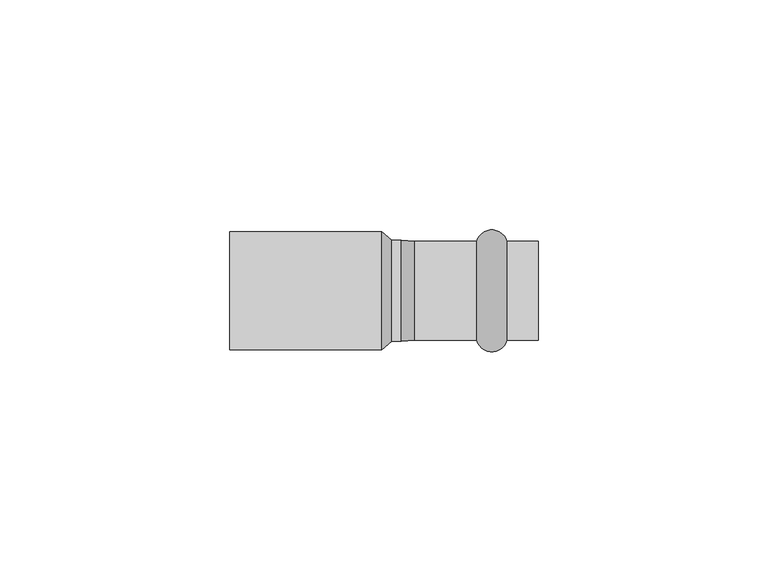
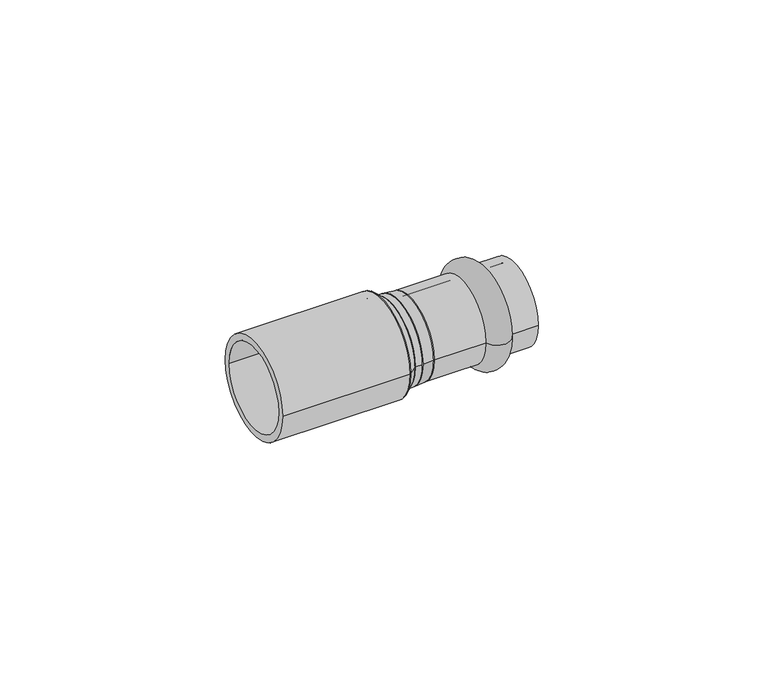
"""IFC4 building model written with IfcOpenShell, lengths in millimetres: pipe fitting geometry, VALTEC_VTi.905.I_Вставка переходная_Нержавеющая сталь : VTi.905.I."""

from ifc_helpers import new_model, si_unit, point, frame, origin, origin_2d, place, context, project, spatial, polyline, circle_curve, ellipse_curve, trimmed, segment, composite_curve, outline, extrude, source, transform, mapped, element, save
from ifc_brep_helpers import plane_surface, cylinder_surface, revolved_surface, advanced_brep


def pipe_fitting_0405b2f1(model_context):
    return source(origin(), model_context, "Body", "SolidModel", [
        advanced_brep(
        [(26.7287193, -10.75, 0.0), (20.1712807, -10.75, 0.0), (20.1712807, 10.75, 0.0), (26.7287193, 10.75, 0.0), (33.5, -10.75, 0.0), (33.5, 10.75, 0.0), (33.5, -9.0, 0.0), (33.5, 9.0, 0.0), (6.7, -9.0, 0.0), (6.7, 9.0, 0.0), (6.7, -10.75, 0.0), (6.7, 10.75, 0.0)],
        [
            (0, 1, circle_curve(frame((23.45, -9.85, 0.0), z_axis=(0.0, 0.0, -1.0), x_axis=(-1.0, 0.0, 0.0)), 3.4)),
            (1, 2, circle_curve(frame((20.1712807, 0.0, 0.0), z_axis=(1.0, 0.0, 0.0), x_axis=(0.0, 1.0, 0.0)), 10.75)),
            (2, 3, circle_curve(frame((23.45, 9.85, 0.0), z_axis=(0.0, 0.0, -1.0), x_axis=(-1.0, 0.0, 0.0)), 3.4)),
            (3, 0, circle_curve(frame((26.7287193, 0.0, 0.0), z_axis=(-1.0, 0.0, 0.0), x_axis=(0.0, 1.0, 0.0)), 10.75)),
            (2, 1, circle_curve(frame((20.1712807, 0.0, 0.0), z_axis=(1.0, 0.0, 0.0), x_axis=(0.0, 1.0, 0.0)), 10.75)),
            (0, 3, circle_curve(frame((26.7287193, 0.0, 0.0), z_axis=(-1.0, 0.0, 0.0), x_axis=(0.0, 1.0, 0.0)), 10.75)),
            (4, 0),
            (3, 5),
            (5, 4, circle_curve(frame((33.5, 0.0, 0.0), z_axis=(-1.0, 0.0, 0.0), x_axis=(0.0, 1.0, 0.0)), 10.75)),
            (4, 5, circle_curve(frame((33.5, 0.0, 0.0), z_axis=(-1.0, 0.0, 0.0), x_axis=(0.0, 1.0, 0.0)), 10.75)),
            (6, 4),
            (5, 7),
            (7, 6, circle_curve(frame((33.5, 0.0, 0.0), z_axis=(-1.0, 0.0, 0.0), x_axis=(0.0, 1.0, 0.0)), 9.0)),
            (6, 7, circle_curve(frame((33.5, 0.0, 0.0), z_axis=(-1.0, 0.0, 0.0), x_axis=(0.0, 1.0, 0.0)), 9.0)),
            (8, 6),
            (7, 9),
            (9, 8, circle_curve(frame((6.7, 0.0, 0.0), z_axis=(-1.0, 0.0, 0.0), x_axis=(0.0, 1.0, 0.0)), 9.0)),
            (8, 9, circle_curve(frame((6.7, 0.0, 0.0), z_axis=(-1.0, 0.0, 0.0), x_axis=(0.0, 1.0, 0.0)), 9.0)),
            (10, 8),
            (9, 11),
            (11, 10, circle_curve(frame((6.7, 0.0, 0.0), z_axis=(-1.0, 0.0, 0.0), x_axis=(0.0, 1.0, 0.0)), 10.75)),
            (10, 11, circle_curve(frame((6.7, 0.0, 0.0), z_axis=(-1.0, 0.0, 0.0), x_axis=(0.0, 1.0, 0.0)), 10.75)),
            (1, 10),
            (11, 2),
        ],
        [
            revolved_surface(trimmed(ellipse_curve(frame((23.45, 9.85, 0.0), z_axis=(0.0, 0.0, -1.0), x_axis=(-1.0, 0.0, 0.0)), 3.4, 3.4), [point((20.1712807, 10.75, 0.0))], [point((26.7287193, 10.75, 0.0))], True, "CARTESIAN"), (37.0364426, 0.0, 0.0), (1.0, 0.0, 0.0)),
            cylinder_surface(frame((37.0364426, 0.0, 0.0), z_axis=(1.0, 0.0, 0.0), x_axis=(0.0, 1.0, 0.0)), 10.75),
            plane_surface(frame((33.5, 0.0, 0.0), z_axis=(1.0, 0.0, 0.0), x_axis=(0.0, 1.0, 0.0))),
            revolved_surface(polyline([(33.5, 9.0, 0.0), (6.699999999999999, 9.0, 0.0)]), (37.0364426, 0.0, 0.0), (1.0, 0.0, 0.0)),
            plane_surface(frame((6.7, 0.0, 0.0), z_axis=(-1.0, 0.0, 0.0), x_axis=(0.0, 1.0, 0.0))),
        ],
        [
            (0, [[1, 2, 3, 4]]),
            (0, [[-3, 5, -1, 6]]),
            (1, [[7, -4, 8, 9]]),
            (1, [[-8, -6, -7, 10]]),
            (2, [[11, -9, 12, 13]]),
            (2, [[-12, -10, -11, 14]]),
            (3, [[15, -13, 16, 17]]),
            (3, [[-16, -14, -15, 18]]),
            (4, [[19, -17, 20, 21]]),
            (4, [[-20, -18, -19, 22]]),
            (1, [[23, -21, 24, -2]]),
            (1, [[-24, -22, -23, -5]]),
        ],
    ),
        advanced_brep(
        [(3.7, -11.0, 0.0), (3.7, 11.0, 0.0), (6.7, -10.75, 0.0), (6.7, 10.75, 0.0)],
        [
            (0, 1, circle_curve(frame((3.7, 0.0, 0.0), z_axis=(-1.0, 0.0, 0.0), x_axis=(0.0, -1.0, 0.0)), 11.0)),
            (1, 0, circle_curve(frame((3.7, 0.0, 0.0), z_axis=(-1.0, 0.0, 0.0), x_axis=(0.0, 1.0, 0.0)), 11.0)),
            (2, 3, circle_curve(frame((6.7, 0.0, 0.0), z_axis=(1.0, 0.0, 0.0), x_axis=(0.0, 1.0, 0.0)), 10.75)),
            (3, 2, circle_curve(frame((6.7, 0.0, 0.0), z_axis=(1.0, 0.0, 0.0), x_axis=(0.0, -1.0, 0.0)), 10.75)),
            (2, 0),
            (1, 3),
        ],
        [
            plane_surface(frame((3.7, 0.0, 0.0), z_axis=(-1.0, 0.0, 0.0), x_axis=(0.0, 0.0, 1.0))),
            plane_surface(frame((6.7, 0.0, 0.0), z_axis=(1.0, 0.0, 0.0), x_axis=(0.0, 0.0, 1.0))),
            revolved_surface(polyline([(6.699999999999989, -10.75, 0.0), (3.6999999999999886, -11.0, 0.0)]), (135.7, 0.0, 0.0), (-1.0, 0.0, 0.0)),
            revolved_surface(polyline([(6.699999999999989, 10.75, 0.0), (3.6999999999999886, 11.0, 0.0)]), (135.7, 0.0, 0.0), (-1.0, 0.0, 0.0)),
        ],
        [
            (0, [[1, 2]]),
            (1, [[3, 4]]),
            (2, [[-3, 5, -2, 6]]),
            (3, [[-4, -6, -1, -5]]),
        ],
    ),
        extrude(outline(composite_curve([segment(trimmed(circle_curve(origin_2d(), 11.0), [point((-11.0, 0.0))], [point((11.0, 0.0))], False, "CARTESIAN"), True, "CONTINUOUS"), segment(trimmed(circle_curve(origin_2d(), 11.0), [point((11.0, 0.0))], [point((-11.0, 0.0))], False, "CARTESIAN"), True, "CONTINUOUS")], self_intersect=False)), frame((1.7, 0.0, 0.0), z_axis=(1.0, 0.0, 0.0), x_axis=(0.0, 1.0, 0.0)), (0.0, 0.0, 1.0), 2.0),
        advanced_brep(
        [(1.7, -11.0, 0.0), (1.7, 11.0, 0.0), (-0.5, -12.8, 0.0), (-0.5, 12.8, 0.0)],
        [
            (0, 1, circle_curve(frame((1.7, 0.0, 0.0), z_axis=(1.0, 0.0, 0.0), x_axis=(0.0, -1.0, 0.0)), 11.0)),
            (1, 0, circle_curve(frame((1.7, 0.0, 0.0), z_axis=(1.0, 0.0, 0.0), x_axis=(0.0, 1.0, 0.0)), 11.0)),
            (2, 3, circle_curve(frame((-0.5, 0.0, 0.0), z_axis=(-1.0, 0.0, 0.0), x_axis=(0.0, 1.0, 0.0)), 12.8)),
            (3, 2, circle_curve(frame((-0.5, 0.0, 0.0), z_axis=(-1.0, 0.0, 0.0), x_axis=(0.0, -1.0, 0.0)), 12.8)),
            (3, 1),
            (0, 2),
        ],
        [
            plane_surface(frame((1.7, 0.0, 0.0), z_axis=(1.0, 0.0, 0.0), x_axis=(0.0, 0.0, -1.0))),
            plane_surface(frame((-0.5, 0.0, 0.0), z_axis=(-1.0, 0.0, 0.0), x_axis=(0.0, 0.0, -1.0))),
            revolved_surface(polyline([(1.6999999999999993, -10.999999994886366, 0.0), (-0.5, -12.8, 0.0)]), (15.1444444, 0.0, 0.0), (-1.0, 0.0, 0.0)),
            revolved_surface(polyline([(1.6999999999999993, 10.999999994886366, 0.0), (-0.5, 12.8, 0.0)]), (15.1444444, 0.0, 0.0), (-1.0, 0.0, 0.0)),
        ],
        [
            (0, [[1, 2]]),
            (1, [[3, 4]]),
            (2, [[-4, 5, -1, 6]]),
            (3, [[-3, -6, -2, -5]]),
        ],
    ),
        extrude(outline(composite_curve([segment(trimmed(circle_curve(origin_2d(), 12.8), [point((-12.8, 0.0))], [point((12.8, 0.0))], False, "CARTESIAN"), True, "CONTINUOUS"), segment(trimmed(circle_curve(origin_2d(), 12.8), [point((12.8, 0.0))], [point((-12.8, 0.0))], False, "CARTESIAN"), True, "CONTINUOUS")], self_intersect=False), holes=[composite_curve([segment(trimmed(circle_curve(origin_2d(), 11.0), [point((-11.0, 0.0))], [point((11.0, 0.0))], True, "CARTESIAN"), True, "CONTINUOUS"), segment(trimmed(circle_curve(origin_2d(), 11.0), [point((11.0, 0.0))], [point((-11.0, 0.0))], True, "CARTESIAN"), True, "CONTINUOUS")], self_intersect=False)]), frame((-33.5, 0.0, 0.0), z_axis=(1.0, 0.0, 0.0), x_axis=(0.0, 1.0, 0.0)), (0.0, 0.0, 1.0), 33.0),
    ])


if __name__ == "__main__":
    model = new_model("IFC4")
    model_context = context("Model", 3, world=origin())
    ifc_project = project(units=[si_unit("LENGTHUNIT", "METRE", prefix="MILLI")], contexts=[model_context])
    site = spatial("IfcSite", under=ifc_project)
    building = spatial("IfcBuilding", under=site)
    placement = place(None, origin())
    pipe_fitting_shape = pipe_fitting_0405b2f1(model_context)
    element("IfcPipeFitting", 1, ObjectType="VALTEC_VTi.905.I_Вставка переходная_Нержавеющая сталь : VTi.905.I", at=placement, inside=building, context=model_context, shape_type="MappedRepresentation", body=[
        mapped(pipe_fitting_shape, transform((0.0, 0.0, 0.0), x_axis=(1.0, 0.0, 0.0), y_axis=(0.0, 1.0, 0.0), z_axis=(0.0, 0.0, 1.0))),
    ])
    save(model, "model.ifc")
